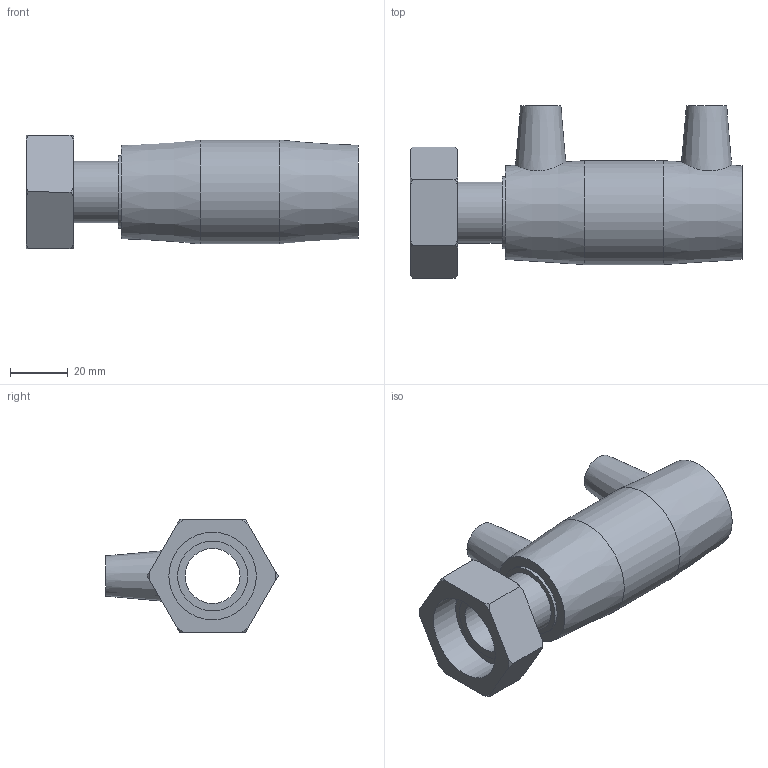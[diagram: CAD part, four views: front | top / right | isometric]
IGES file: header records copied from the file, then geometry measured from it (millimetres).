
Global section: file name: 494104025010.ipt; native system: Autodesk Inventor 2015; preprocessor: unknown; author: KIM; date: 20171106.094127; units: millimetre
Bounding box: 115 x 59.72 x 39.35 mm (x, y, z)
Volume: 66408 mm3; surface area: 27668.9 mm2
Topology: 1 solids, 2 shells, 54 faces, 128 edges, 88 vertices
Faces by surface type: plane 22, cone 16, revolution 9, cylinder 7
Full cylindrical faces by diameter (mm): 4 x2, 21.204 x1, 24.233 x1, 25 x2, 36 x1
